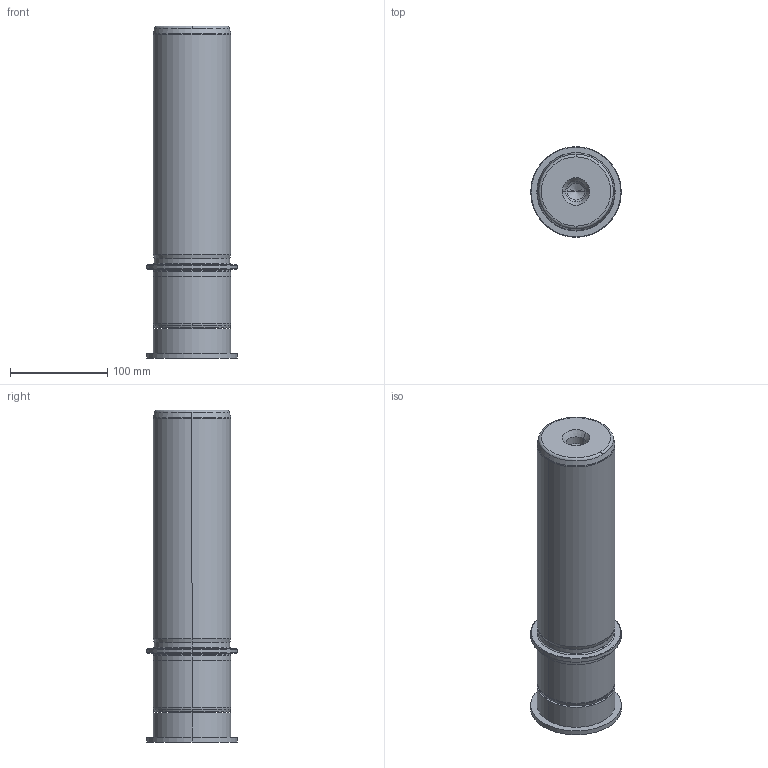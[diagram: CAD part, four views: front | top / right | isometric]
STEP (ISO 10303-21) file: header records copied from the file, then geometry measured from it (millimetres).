
FILE_DESCRIPTION((''),'2;1');
FILE_NAME('P22_080_250.stp','2009-02-03T10:15:24',(''),(''),'Mechanical Desktop 2009','Mechanical Desktop 2009',', , ');
FILE_SCHEMA(('CONFIG_CONTROL_DESIGN'));
Length unit declared in the file: millimetre
Products named in the file (2): Product; blmdl1
Assembly tree (1 placements, depth 2):
  Product
    blmdl1
Bounding box: 93 x 93 x 341 mm (x, y, z)
Volume: 1698102.8 mm3; surface area: 126887.4 mm2
Topology: 3 solids, 3 shells, 99 faces, 237 edges, 149 vertices
Faces by surface type: cylinder 32, cone 28, plane 19, torus 10, bspline 10
Entity records: 3419 total; most frequent: CARTESIAN_POINT 923, DIRECTION 570, ORIENTED_EDGE 466, AXIS2_PLACEMENT_3D 246, EDGE_CURVE 233, CIRCLE 155, VERTEX_POINT 149, EDGE_LOOP 110
